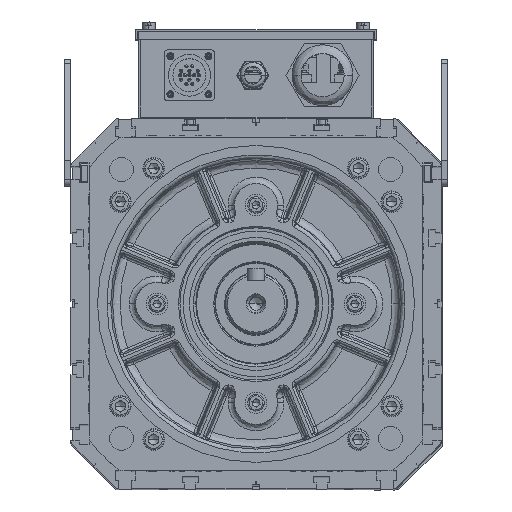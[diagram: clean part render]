
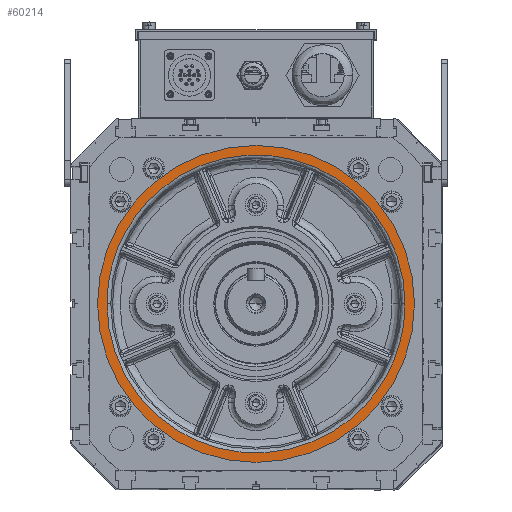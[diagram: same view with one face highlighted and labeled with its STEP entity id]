
A CAD part, top view. The second image highlights one B-rep face of the part: STEP entity #60214.
In plain terms, the highlighted planar face has unit normal (0, 0, 1) as drawn and (0, 0, -1) by its records, which use the part's own axes.
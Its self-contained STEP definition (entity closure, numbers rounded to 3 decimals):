
#393 = CARTESIAN_POINT ( 'NONE',  ( -66.798, 5.856, 132.5 ) ) ;
#993 =( BOUNDED_CURVE ( )  B_SPLINE_CURVE ( 3, ( #139683, #31996, #69254, #127278 ),
 .UNSPECIFIED., .F., .F. ) 
 B_SPLINE_CURVE_WITH_KNOTS ( ( 4, 4 ),
 ( 0., 1. ),
 .UNSPECIFIED. ) 
 CURVE ( )  GEOMETRIC_REPRESENTATION_ITEM ( )  RATIONAL_B_SPLINE_CURVE ( ( 1., 0.333, 0.333, 1. ) ) 
 REPRESENTATION_ITEM ( '' )  );
#3149 = AXIS2_PLACEMENT_3D ( 'NONE', #124684, #6097, #6607 ) ;
#5181 = EDGE_CURVE ( 'NONE', #96841, #32525, #16275, .T. ) ;
#6097 = DIRECTION ( 'NONE',  ( 0., 0., 1. ) ) ;
#6607 = DIRECTION ( 'NONE',  ( -1., 0., 0. ) ) ;
#8593 = EDGE_CURVE ( 'NONE', #67785, #50232, #153474, .T. ) ;
#13526 = CIRCLE ( 'NONE', #87155, 125. ) ;
#15009 = CARTESIAN_POINT ( 'NONE',  ( 175.72, -229.179, 132.5 ) ) ;
#15518 = CARTESIAN_POINT ( 'NONE',  ( -59.315, -229.179, 132.5 ) ) ;
#16275 = CIRCLE ( 'NONE', #3149, 125. ) ;
#23728 = DIRECTION ( 'NONE',  ( -1., 0., 0. ) ) ;
#31996 = CARTESIAN_POINT ( 'NONE',  ( -59.315, 240.89, 132.5 ) ) ;
#32525 = VERTEX_POINT ( 'NONE', #393 ) ;
#34453 = CARTESIAN_POINT ( 'NONE',  ( -59.315, 5.856, 132.5 ) ) ;
#35051 = DIRECTION ( 'NONE',  ( 0., 0., 1. ) ) ;
#42258 = PLANE ( 'NONE',  #125177 ) ;
#50232 = VERTEX_POINT ( 'NONE', #34453 ) ;
#60214 = ADVANCED_FACE ( 'NONE', ( #103511, #131279 ), #42258, .F. ) ;
#65048 = DIRECTION ( 'NONE',  ( 0., 0., 1. ) ) ;
#67785 = VERTEX_POINT ( 'NONE', #116548 ) ;
#69254 = CARTESIAN_POINT ( 'NONE',  ( 175.72, 240.89, 132.5 ) ) ;
#76933 = DIRECTION ( 'NONE',  ( 1., 0., 0. ) ) ;
#84106 = ORIENTED_EDGE ( 'NONE', *, *, #5181, .F. ) ;
#87155 = AXIS2_PLACEMENT_3D ( 'NONE', #93639, #35051, #23728 ) ;
#92695 = ORIENTED_EDGE ( 'NONE', *, *, #124902, .F. ) ;
#93639 = CARTESIAN_POINT ( 'NONE',  ( 58.202, 5.856, 132.5 ) ) ;
#96841 = VERTEX_POINT ( 'NONE', #123165 ) ;
#97269 = ORIENTED_EDGE ( 'NONE', *, *, #8593, .F. ) ;
#98360 = CARTESIAN_POINT ( 'NONE',  ( -59.315, 5.856, 132.5 ) ) ;
#103511 = FACE_OUTER_BOUND ( 'NONE', #146986, .T. ) ;
#111405 = EDGE_LOOP ( 'NONE', ( #97269, #92695 ) ) ;
#116548 = CARTESIAN_POINT ( 'NONE',  ( 175.72, 5.856, 132.5 ) ) ;
#123165 = CARTESIAN_POINT ( 'NONE',  ( 183.202, 5.856, 132.5 ) ) ;
#124684 = CARTESIAN_POINT ( 'NONE',  ( 58.202, 5.856, 132.5 ) ) ;
#124902 = EDGE_CURVE ( 'NONE', #50232, #67785, #993, .T. ) ;
#125177 = AXIS2_PLACEMENT_3D ( 'NONE', #148434, #65048, #76933 ) ;
#127278 = CARTESIAN_POINT ( 'NONE',  ( 175.72, 5.856, 132.5 ) ) ;
#131279 = FACE_BOUND ( 'NONE', #111405, .T. ) ;
#139683 = CARTESIAN_POINT ( 'NONE',  ( -59.315, 5.856, 132.5 ) ) ;
#145427 = CARTESIAN_POINT ( 'NONE',  ( 175.72, 5.856, 132.5 ) ) ;
#146986 = EDGE_LOOP ( 'NONE', ( #153603, #84106 ) ) ;
#148039 = EDGE_CURVE ( 'NONE', #32525, #96841, #13526, .T. ) ;
#148434 = CARTESIAN_POINT ( 'NONE',  ( 58.202, 130.856, 132.5 ) ) ;
#153474 =( BOUNDED_CURVE ( )  B_SPLINE_CURVE ( 3, ( #145427, #15009, #15518, #98360 ),
 .UNSPECIFIED., .F., .F. ) 
 B_SPLINE_CURVE_WITH_KNOTS ( ( 4, 4 ),
 ( 0., 1. ),
 .UNSPECIFIED. ) 
 CURVE ( )  GEOMETRIC_REPRESENTATION_ITEM ( )  RATIONAL_B_SPLINE_CURVE ( ( 1., 0.333, 0.333, 1. ) ) 
 REPRESENTATION_ITEM ( '' )  );
#153603 = ORIENTED_EDGE ( 'NONE', *, *, #148039, .F. ) ;
